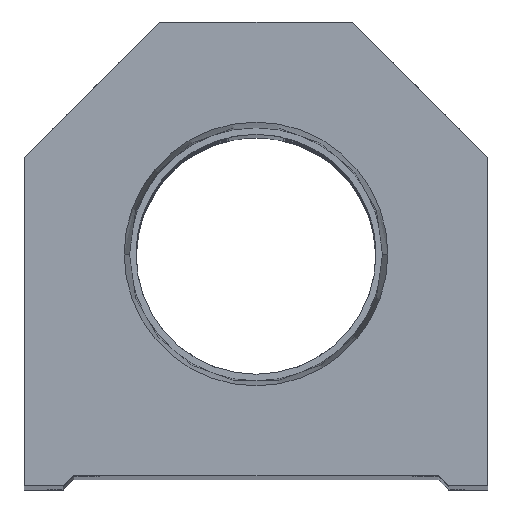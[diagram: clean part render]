
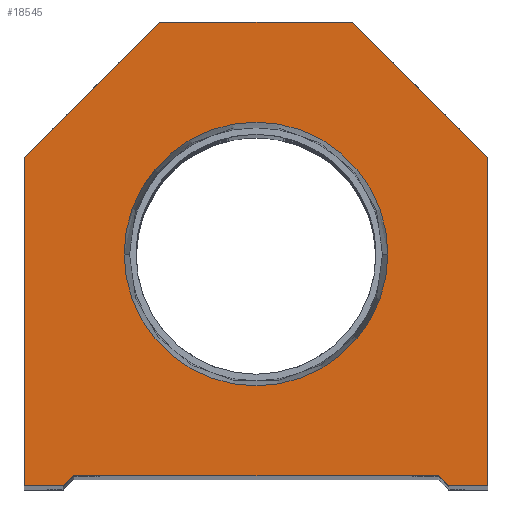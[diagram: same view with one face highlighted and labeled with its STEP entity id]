
A CAD part, top view. The second image highlights one B-rep face of the part: STEP entity #18545.
In plain terms, the highlighted planar face has unit normal (0, 0, 1).
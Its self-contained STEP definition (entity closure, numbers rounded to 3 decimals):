
#236 = ORIENTED_EDGE ( 'NONE', *, *, #2398, .T. ) ;
#334 = EDGE_CURVE ( 'NONE', #19605, #932, #19600, .T. ) ;
#705 = CIRCLE ( 'NONE', #19075, 12.647 ) ;
#770 = DIRECTION ( 'NONE',  ( 1., 0., 0. ) ) ;
#773 = ORIENTED_EDGE ( 'NONE', *, *, #5353, .T. ) ;
#844 = EDGE_CURVE ( 'NONE', #17554, #8764, #20323, .T. ) ;
#932 = VERTEX_POINT ( 'NONE', #3564 ) ;
#1240 = LINE ( 'NONE', #17021, #5982 ) ;
#1331 = CARTESIAN_POINT ( 'NONE',  ( -18.5, 0., 0. ) ) ;
#1475 = LINE ( 'NONE', #2998, #19339 ) ;
#1802 = ORIENTED_EDGE ( 'NONE', *, *, #4353, .F. ) ;
#1938 = DIRECTION ( 'NONE',  ( 0.707, 0.707, 0. ) ) ;
#2398 = EDGE_CURVE ( 'NONE', #3127, #9074, #14612, .T. ) ;
#2486 = CARTESIAN_POINT ( 'NONE',  ( -17.5, 0., 0. ) ) ;
#2826 = ORIENTED_EDGE ( 'NONE', *, *, #334, .T. ) ;
#2827 = EDGE_CURVE ( 'NONE', #932, #8654, #16365, .T. ) ;
#2998 = CARTESIAN_POINT ( 'NONE',  ( -17.5, 1., 0. ) ) ;
#3127 = VERTEX_POINT ( 'NONE', #4524 ) ;
#3279 = VERTEX_POINT ( 'NONE', #13736 ) ;
#3564 = CARTESIAN_POINT ( 'NONE',  ( 18.5, 0., 0. ) ) ;
#3697 = ORIENTED_EDGE ( 'NONE', *, *, #19859, .T. ) ;
#3900 = DIRECTION ( 'NONE',  ( 1., 0., 0. ) ) ;
#3959 = DIRECTION ( 'NONE',  ( 0., 1., 0. ) ) ;
#4207 = VERTEX_POINT ( 'NONE', #7209 ) ;
#4252 = DIRECTION ( 'NONE',  ( -1., 0., 0. ) ) ;
#4319 = EDGE_CURVE ( 'NONE', #4207, #17554, #11788, .T. ) ;
#4353 = EDGE_CURVE ( 'NONE', #3279, #13880, #12398, .T. ) ;
#4384 = DIRECTION ( 'NONE',  ( 1., 0., 0. ) ) ;
#4524 = CARTESIAN_POINT ( 'NONE',  ( 22.25, 31.5, 0. ) ) ;
#4696 = DIRECTION ( 'NONE',  ( 0., 0., 1. ) ) ;
#5245 = VECTOR ( 'NONE', #16074, 1000. ) ;
#5353 = EDGE_CURVE ( 'NONE', #8654, #3127, #5495, .T. ) ;
#5495 = LINE ( 'NONE', #13185, #8930 ) ;
#5739 = CARTESIAN_POINT ( 'NONE',  ( 0., 22.25, 0. ) ) ;
#5982 = VECTOR ( 'NONE', #15346, 1000. ) ;
#6036 = FACE_OUTER_BOUND ( 'NONE', #6783, .T. ) ;
#6095 = LINE ( 'NONE', #17194, #14576 ) ;
#6426 = EDGE_CURVE ( 'NONE', #9074, #13470, #7349, .T. ) ;
#6783 = EDGE_LOOP ( 'NONE', ( #10185, #18354, #13802, #2826, #19869, #773, #236, #10093, #3697, #13719 ) ) ;
#7012 = CARTESIAN_POINT ( 'NONE',  ( -17.5, 1., 0. ) ) ;
#7209 = CARTESIAN_POINT ( 'NONE',  ( -22.25, 0., 0. ) ) ;
#7349 = LINE ( 'NONE', #7448, #12222 ) ;
#7448 = CARTESIAN_POINT ( 'NONE',  ( 9.25, 44.5, 0. ) ) ;
#7812 = DIRECTION ( 'NONE',  ( 1., 0., 0. ) ) ;
#7938 = DIRECTION ( 'NONE',  ( -0.707, -0.707, 0. ) ) ;
#8040 = VECTOR ( 'NONE', #12175, 1000. ) ;
#8127 = CARTESIAN_POINT ( 'NONE',  ( 22.25, 0., 0. ) ) ;
#8153 = ORIENTED_EDGE ( 'NONE', *, *, #14480, .F. ) ;
#8654 = VERTEX_POINT ( 'NONE', #8127 ) ;
#8764 = VERTEX_POINT ( 'NONE', #7012 ) ;
#8919 = CARTESIAN_POINT ( 'NONE',  ( 0., 0., 0. ) ) ;
#8930 = VECTOR ( 'NONE', #3959, 1000. ) ;
#9074 = VERTEX_POINT ( 'NONE', #15653 ) ;
#9287 = CARTESIAN_POINT ( 'NONE',  ( -9.25, 9.25, 0. ) ) ;
#9694 = CARTESIAN_POINT ( 'NONE',  ( 9.25, 9.25, 0. ) ) ;
#10081 = CARTESIAN_POINT ( 'NONE',  ( 17.5, 0., 0. ) ) ;
#10093 = ORIENTED_EDGE ( 'NONE', *, *, #6426, .T. ) ;
#10164 = VECTOR ( 'NONE', #770, 1000. ) ;
#10185 = ORIENTED_EDGE ( 'NONE', *, *, #4319, .T. ) ;
#10202 = CARTESIAN_POINT ( 'NONE',  ( 22.25, 31.5, 0. ) ) ;
#11695 = DIRECTION ( 'NONE',  ( 0., 0., 1. ) ) ;
#11788 = LINE ( 'NONE', #2486, #8040 ) ;
#11885 = EDGE_CURVE ( 'NONE', #8764, #19605, #1475, .T. ) ;
#12175 = DIRECTION ( 'NONE',  ( 1., 0., 0. ) ) ;
#12222 = VECTOR ( 'NONE', #4252, 1000. ) ;
#12279 = DIRECTION ( 'NONE',  ( 1., 0., 0. ) ) ;
#12398 = CIRCLE ( 'NONE', #13064, 12.647 ) ;
#13064 = AXIS2_PLACEMENT_3D ( 'NONE', #5739, #19742, #4384 ) ;
#13185 = CARTESIAN_POINT ( 'NONE',  ( 22.25, 0., 0. ) ) ;
#13388 = DIRECTION ( 'NONE',  ( -0.707, 0.707, 0. ) ) ;
#13470 = VERTEX_POINT ( 'NONE', #15584 ) ;
#13719 = ORIENTED_EDGE ( 'NONE', *, *, #17545, .T. ) ;
#13736 = CARTESIAN_POINT ( 'NONE',  ( 12.647, 22.25, 0. ) ) ;
#13802 = ORIENTED_EDGE ( 'NONE', *, *, #11885, .T. ) ;
#13880 = VERTEX_POINT ( 'NONE', #18752 ) ;
#14007 = VECTOR ( 'NONE', #1938, 1000. ) ;
#14480 = EDGE_CURVE ( 'NONE', #13880, #3279, #705, .T. ) ;
#14576 = VECTOR ( 'NONE', #7938, 1000. ) ;
#14612 = LINE ( 'NONE', #10202, #17738 ) ;
#14803 = CARTESIAN_POINT ( 'NONE',  ( -22.25, 31.5, 0. ) ) ;
#15242 = CARTESIAN_POINT ( 'NONE',  ( 17.5, 1., 0. ) ) ;
#15346 = DIRECTION ( 'NONE',  ( 0., -1., 0. ) ) ;
#15584 = CARTESIAN_POINT ( 'NONE',  ( -9.25, 44.5, 0. ) ) ;
#15653 = CARTESIAN_POINT ( 'NONE',  ( 9.25, 44.5, 0. ) ) ;
#15832 = AXIS2_PLACEMENT_3D ( 'NONE', #8919, #4696, #12279 ) ;
#15955 = EDGE_LOOP ( 'NONE', ( #1802, #8153 ) ) ;
#15979 = VERTEX_POINT ( 'NONE', #14803 ) ;
#16074 = DIRECTION ( 'NONE',  ( 0.707, -0.707, 0. ) ) ;
#16365 = LINE ( 'NONE', #10081, #10164 ) ;
#16837 = PLANE ( 'NONE',  #15832 ) ;
#17021 = CARTESIAN_POINT ( 'NONE',  ( -22.25, 0., 0. ) ) ;
#17194 = CARTESIAN_POINT ( 'NONE',  ( -22.25, 31.5, 0. ) ) ;
#17545 = EDGE_CURVE ( 'NONE', #15979, #4207, #1240, .T. ) ;
#17554 = VERTEX_POINT ( 'NONE', #1331 ) ;
#17738 = VECTOR ( 'NONE', #13388, 1000. ) ;
#18354 = ORIENTED_EDGE ( 'NONE', *, *, #844, .T. ) ;
#18545 = ADVANCED_FACE ( 'NONE', ( #18773, #6036 ), #16837, .T. ) ;
#18752 = CARTESIAN_POINT ( 'NONE',  ( -12.647, 22.25, 0. ) ) ;
#18773 = FACE_BOUND ( 'NONE', #15955, .T. ) ;
#19075 = AXIS2_PLACEMENT_3D ( 'NONE', #19540, #11695, #3900 ) ;
#19339 = VECTOR ( 'NONE', #7812, 1000. ) ;
#19540 = CARTESIAN_POINT ( 'NONE',  ( 0., 22.25, 0. ) ) ;
#19600 = LINE ( 'NONE', #9694, #5245 ) ;
#19605 = VERTEX_POINT ( 'NONE', #15242 ) ;
#19742 = DIRECTION ( 'NONE',  ( 0., 0., 1. ) ) ;
#19859 = EDGE_CURVE ( 'NONE', #13470, #15979, #6095, .T. ) ;
#19869 = ORIENTED_EDGE ( 'NONE', *, *, #2827, .T. ) ;
#20323 = LINE ( 'NONE', #9287, #14007 ) ;
